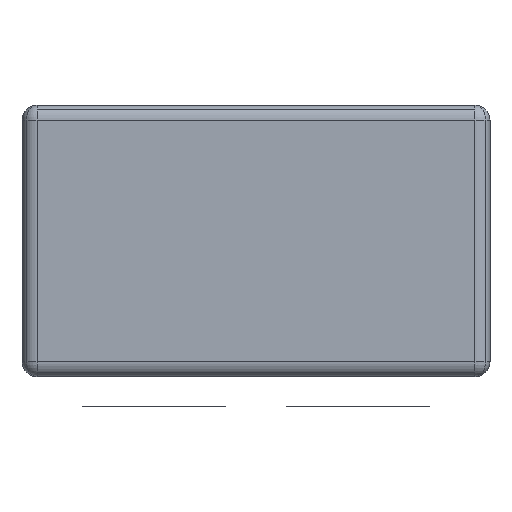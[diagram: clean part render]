
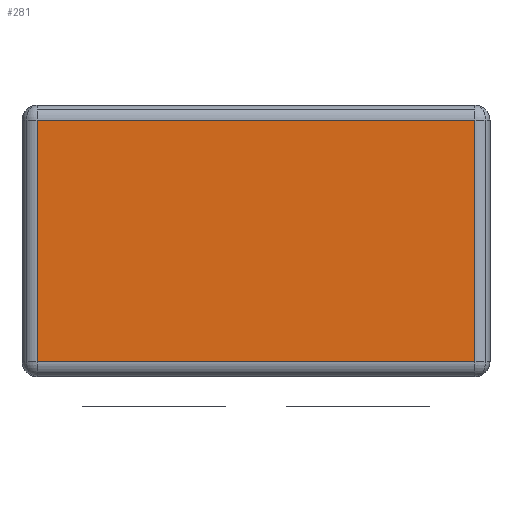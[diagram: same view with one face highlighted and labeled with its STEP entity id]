
A CAD part, front view. The second image highlights one B-rep face of the part: STEP entity #281.
In plain terms, the highlighted planar face has unit normal (0, -1, 0).
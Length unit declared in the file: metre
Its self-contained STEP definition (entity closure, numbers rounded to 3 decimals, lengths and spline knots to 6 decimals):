
#281=ADVANCED_FACE('0:402',(#746),#747,.T.);
#746=FACE_OUTER_BOUND('',#1329,.T.);
#747=PLANE('',#1330);
#1329=EDGE_LOOP('',(#3168,#3169,#3170,#3171));
#1330=AXIS2_PLACEMENT_3D('',#3172,#3173,#3174);
#3168=ORIENTED_EDGE('',*,*,#3915,.F.);
#3169=ORIENTED_EDGE('',*,*,#3875,.F.);
#3170=ORIENTED_EDGE('',*,*,#4329,.F.);
#3171=ORIENTED_EDGE('',*,*,#4330,.F.);
#3172=CARTESIAN_POINT('',(0.00775,0.0,0.0));
#3173=DIRECTION('',(0.0,-1.0,0.0));
#3174=DIRECTION('',(1.0,0.0,0.0));
#3875=EDGE_CURVE('4:530',#4652,#4654,#4655,.T.);
#3915=EDGE_CURVE('4:33',#4654,#4724,#4725,.T.);
#4329=EDGE_CURVE('4:24',#4703,#4652,#5372,.T.);
#4330=EDGE_CURVE('4:497',#4724,#4703,#5373,.T.);
#4652=VERTEX_POINT('',#5826);
#4654=VERTEX_POINT('',#5828);
#4655=LINE('',#5829,#5830);
#4703=VERTEX_POINT('',#5884);
#4724=VERTEX_POINT('',#5912);
#4725=LINE('',#5913,#5914);
#5372=LINE('',#6922,#6923);
#5373=LINE('',#6924,#6925);
#5826=CARTESIAN_POINT('',(0.015,0.0,-0.0055));
#5828=CARTESIAN_POINT('',(0.0005,0.0,-0.0055));
#5829=CARTESIAN_POINT('',(0.003875,0.0,-0.0055));
#5830=VECTOR('',#7382,1.0);
#5884=CARTESIAN_POINT('',(0.015,0.0,0.0025));
#5912=CARTESIAN_POINT('',(0.0005,0.0,0.0025));
#5913=CARTESIAN_POINT('',(0.0005,0.0,0.0));
#5914=VECTOR('',#7474,1.0);
#6922=CARTESIAN_POINT('',(0.015,0.0,0.0));
#6923=VECTOR('',#8084,1.0);
#6924=CARTESIAN_POINT('',(0.003875,0.0,0.0025));
#6925=VECTOR('',#8085,1.0);
#7382=DIRECTION('',(-1.0,0.0,0.0));
#7474=DIRECTION('',(0.0,0.0,1.0));
#8084=DIRECTION('',(0.0,-0.0,-1.0));
#8085=DIRECTION('',(1.0,-0.0,-0.0));
